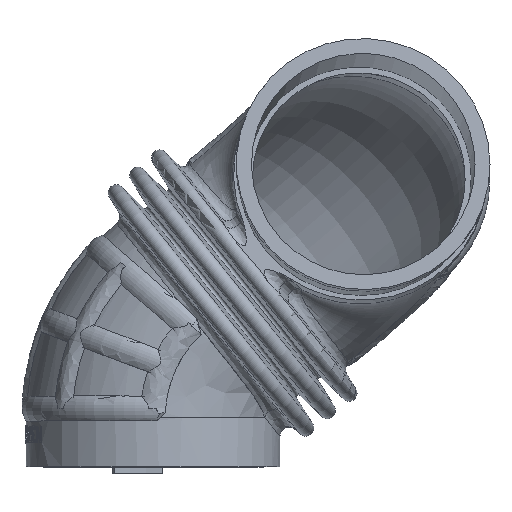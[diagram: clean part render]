
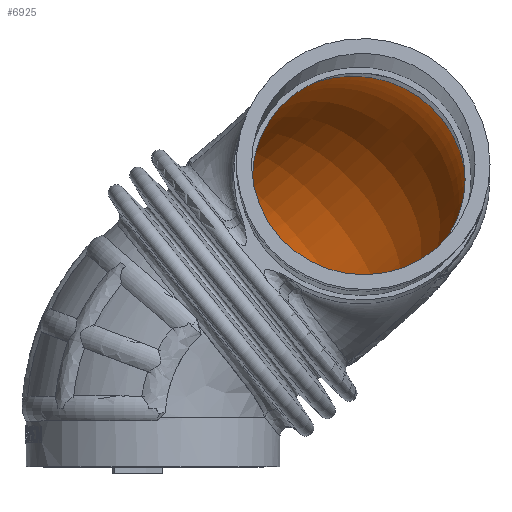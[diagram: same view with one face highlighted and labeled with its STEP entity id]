
A CAD part, top view. The second image highlights one B-rep face of the part: STEP entity #6925.
In plain terms, the highlighted toroidal (fillet/blend) face has major radius 43.098 mm and minor radius 37.973 mm.
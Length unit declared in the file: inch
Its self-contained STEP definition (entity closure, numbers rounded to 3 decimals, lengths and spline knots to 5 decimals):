
#654=TOROIDAL_SURFACE('',#7399,1.69679,1.495);
#941=FACE_OUTER_BOUND('',#1328,.T.);
#1328=EDGE_LOOP('',(#5670,#5671,#5672,#5673,#5674,#5675,#5676,#5677));
#1713=CIRCLE('',#7400,1.495);
#1714=CIRCLE('',#7401,1.495);
#1715=CIRCLE('',#7402,1.495);
#1716=CIRCLE('',#7403,0.20179);
#1826=B_SPLINE_CURVE_WITH_KNOTS('',3,(#8995,#8996,#8997,#8998,#8999,#9000,
#9001,#9002,#9003,#9004,#9005,#9006,#9007,#9008,#9009,#9010,#9011,#9012,
#9013,#9014,#9015,#9016,#9017,#9018,#9019,#9020,#9021,#9022,#9023,#9024,
#9025,#9026),.UNSPECIFIED.,.F.,.F.,(4,1,1,1,1,1,1,1,1,1,1,1,1,1,1,1,1,1,
1,1,1,1,1,1,1,1,1,1,1,4),(-2.47469,-2.32597,-2.17725,
-2.10289,-2.02853,-1.95417,-1.91699,
-1.87981,-1.83024,-1.78067,-1.75588,
-1.7311,-1.68152,-1.65674,-1.63195,
-1.58238,-1.5328,-1.48323,-1.43366,-1.38408,
-1.28494,-1.13622,-0.9875,-0.83878,
-0.69006,-0.6157,-0.57852,-0.54134,
-0.52275,-0.50694),.UNSPECIFIED.);
#1827=B_SPLINE_CURVE_WITH_KNOTS('',3,(#9028,#9029,#9030,#9031,#9032,#9033,
#9034),.UNSPECIFIED.,.F.,.F.,(4,1,1,1,4),(-0.50694,-0.50416,
-0.46698,-0.4298,-0.39262),.UNSPECIFIED.);
#2296=B_SPLINE_CURVE_WITH_KNOTS('',3,(#16584,#16585,#16586,#16587,#16588,
#16589,#16590),.UNSPECIFIED.,.F.,.F.,(4,1,1,1,4),(-0.39262,-0.33653,
-0.22435,-0.11218,0.),
 .UNSPECIFIED.);
#2404=VERTEX_POINT('',#8987);
#2406=VERTEX_POINT('',#8994);
#2407=VERTEX_POINT('',#9027);
#2951=VERTEX_POINT('',#16599);
#2952=VERTEX_POINT('',#16600);
#2953=VERTEX_POINT('',#16602);
#3183=EDGE_CURVE('',#2404,#2406,#1826,.T.);
#3184=EDGE_CURVE('',#2406,#2407,#1827,.T.);
#3920=EDGE_CURVE('',#2407,#2404,#2296,.T.);
#3924=EDGE_CURVE('',#2951,#2952,#1713,.T.);
#3925=EDGE_CURVE('',#2953,#2951,#1714,.T.);
#3926=EDGE_CURVE('',#2952,#2953,#1715,.T.);
#3927=EDGE_CURVE('',#2952,#2406,#1716,.T.);
#5670=ORIENTED_EDGE('',*,*,#3924,.F.);
#5671=ORIENTED_EDGE('',*,*,#3925,.F.);
#5672=ORIENTED_EDGE('',*,*,#3926,.F.);
#5673=ORIENTED_EDGE('',*,*,#3927,.T.);
#5674=ORIENTED_EDGE('',*,*,#3183,.F.);
#5675=ORIENTED_EDGE('',*,*,#3920,.F.);
#5676=ORIENTED_EDGE('',*,*,#3184,.F.);
#5677=ORIENTED_EDGE('',*,*,#3927,.F.);
#6925=ADVANCED_FACE('',(#941),#654,.F.);
#7399=AXIS2_PLACEMENT_3D('',#16598,#8220,#8221);
#7400=AXIS2_PLACEMENT_3D('',#16601,#8222,#8223);
#7401=AXIS2_PLACEMENT_3D('',#16603,#8224,#8225);
#7402=AXIS2_PLACEMENT_3D('',#16604,#8226,#8227);
#7403=AXIS2_PLACEMENT_3D('',#16605,#8228,#8229);
#8220=DIRECTION('center_axis',(0.625,-0.776,0.087));
#8221=DIRECTION('ref_axis',(0.138,0.,-0.99));
#8222=DIRECTION('center_axis',(0.779,0.627,0.));
#8223=DIRECTION('ref_axis',(-0.627,0.779,0.));
#8224=DIRECTION('center_axis',(0.779,0.627,0.));
#8225=DIRECTION('ref_axis',(-0.627,0.779,0.));
#8226=DIRECTION('center_axis',(0.779,0.627,0.));
#8227=DIRECTION('ref_axis',(-0.627,0.779,0.));
#8228=DIRECTION('center_axis',(0.625,-0.776,0.087));
#8229=DIRECTION('ref_axis',(0.138,0.,-0.99));
#8987=CARTESIAN_POINT('',(1.39911,4.50244,1.10438));
#8994=CARTESIAN_POINT('',(1.57626,2.91454,1.59022));
#8995=CARTESIAN_POINT('Ctrl Pts',(1.39911,4.50244,1.10438));
#8996=CARTESIAN_POINT('Ctrl Pts',(1.46054,4.61082,1.06108));
#8997=CARTESIAN_POINT('Ctrl Pts',(1.61615,4.81553,0.97734));
#8998=CARTESIAN_POINT('Ctrl Pts',(1.90786,5.03328,0.88071));
#8999=CARTESIAN_POINT('Ctrl Pts',(2.22146,5.16241,0.8103));
#9000=CARTESIAN_POINT('Ctrl Pts',(2.5022,5.22268,0.76312));
#9001=CARTESIAN_POINT('Ctrl Pts',(2.77879,5.22573,0.73113));
#9002=CARTESIAN_POINT('Ctrl Pts',(3.0191,5.18503,0.71325));
#9003=CARTESIAN_POINT('Ctrl Pts',(3.22989,5.12175,0.70354));
#9004=CARTESIAN_POINT('Ctrl Pts',(3.46271,5.0106,0.70138));
#9005=CARTESIAN_POINT('Ctrl Pts',(3.66618,4.86011,0.71005));
#9006=CARTESIAN_POINT('Ctrl Pts',(3.80968,4.71476,0.72375));
#9007=CARTESIAN_POINT('Ctrl Pts',(3.93949,4.55339,0.7419));
#9008=CARTESIAN_POINT('Ctrl Pts',(4.04029,4.37782,0.76566));
#9009=CARTESIAN_POINT('Ctrl Pts',(4.11187,4.19416,0.79399));
#9010=CARTESIAN_POINT('Ctrl Pts',(4.16255,4.01379,0.8239));
#9011=CARTESIAN_POINT('Ctrl Pts',(4.1915,3.79098,0.86456));
#9012=CARTESIAN_POINT('Ctrl Pts',(4.17993,3.54856,0.91406));
#9013=CARTESIAN_POINT('Ctrl Pts',(4.13486,3.33246,0.96295));
#9014=CARTESIAN_POINT('Ctrl Pts',(4.06454,3.14173,1.01081));
#9015=CARTESIAN_POINT('Ctrl Pts',(3.94921,2.92487,1.07132));
#9016=CARTESIAN_POINT('Ctrl Pts',(3.74325,2.66955,1.15593));
#9017=CARTESIAN_POINT('Ctrl Pts',(3.43034,2.44781,1.25953));
#9018=CARTESIAN_POINT('Ctrl Pts',(3.06579,2.32104,1.36562));
#9019=CARTESIAN_POINT('Ctrl Pts',(2.68172,2.29585,1.46582));
#9020=CARTESIAN_POINT('Ctrl Pts',(2.33379,2.36764,1.54268));
#9021=CARTESIAN_POINT('Ctrl Pts',(2.05034,2.50307,1.5855));
#9022=CARTESIAN_POINT('Ctrl Pts',(1.86745,2.62682,1.60085));
#9023=CARTESIAN_POINT('Ctrl Pts',(1.74231,2.7327,1.60344));
#9024=CARTESIAN_POINT('Ctrl Pts',(1.64324,2.83475,1.59818));
#9025=CARTESIAN_POINT('Ctrl Pts',(1.59675,2.88907,1.59309));
#9026=CARTESIAN_POINT('Ctrl Pts',(1.57624,2.91452,1.59023));
#9027=CARTESIAN_POINT('',(1.29752,3.42592,1.48537));
#9028=CARTESIAN_POINT('Ctrl Pts',(1.57624,2.91452,1.59023));
#9029=CARTESIAN_POINT('Ctrl Pts',(1.57263,2.91901,1.58973));
#9030=CARTESIAN_POINT('Ctrl Pts',(1.52114,2.98361,1.58227));
#9031=CARTESIAN_POINT('Ctrl Pts',(1.43356,3.11308,1.56153));
#9032=CARTESIAN_POINT('Ctrl Pts',(1.3494,3.28091,1.52421));
#9033=CARTESIAN_POINT('Ctrl Pts',(1.3126,3.37917,1.49836));
#9034=CARTESIAN_POINT('Ctrl Pts',(1.29752,3.42592,1.48537));
#16584=CARTESIAN_POINT('Ctrl Pts',(1.29752,3.42592,1.48537));
#16585=CARTESIAN_POINT('Ctrl Pts',(1.27477,3.49644,1.46578));
#16586=CARTESIAN_POINT('Ctrl Pts',(1.22909,3.69189,1.40654));
#16587=CARTESIAN_POINT('Ctrl Pts',(1.22158,3.96266,1.31223));
#16588=CARTESIAN_POINT('Ctrl Pts',(1.27771,4.24872,1.2047));
#16589=CARTESIAN_POINT('Ctrl Pts',(1.35277,4.4207,1.13704));
#16590=CARTESIAN_POINT('Ctrl Pts',(1.39911,4.50244,1.10438));
#16598=CARTESIAN_POINT('Origin',(1.4345,2.81159,1.69033));
#16599=CARTESIAN_POINT('',(0.59299,3.85624,-0.1303));
#16600=CARTESIAN_POINT('',(1.44553,2.79789,1.48931));
#16601=CARTESIAN_POINT('Origin',(1.52727,2.69642,0.));
#16602=CARTESIAN_POINT('',(2.46511,1.53217,0.));
#16603=CARTESIAN_POINT('Origin',(1.52727,2.69642,0.));
#16604=CARTESIAN_POINT('Origin',(1.52727,2.69642,0.));
#16605=CARTESIAN_POINT('Origin',(1.4345,2.81159,1.69033));
